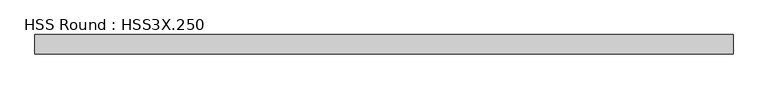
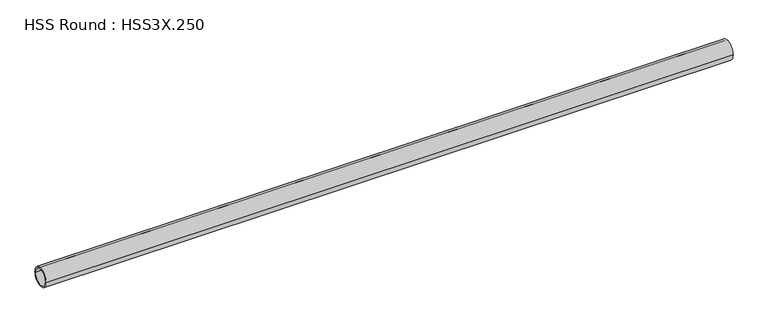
"""IFC4 building model written with IfcOpenShell, lengths in millimetres: member geometry, HSS Round : HSS3X.250."""

from ifc_helpers import new_model, si_unit, point, frame, origin, origin_2d, place, context, project, spatial, circle_curve, trimmed, segment, composite_curve, outline, extrude, source, transform, mapped, element, save


def hss_round_hss3x_250_1ae0081d(model_context):
    return source(origin(), model_context, "Body", "SweptSolid", [
        extrude(outline(composite_curve([segment(trimmed(circle_curve(origin_2d(), 38.1), [point((-38.1, 0.0))], [point((38.1, 0.0))], False, "CARTESIAN"), True, "CONTINUOUS"), segment(trimmed(circle_curve(origin_2d(), 38.1), [point((38.1, 0.0))], [point((-38.1, 0.0))], False, "CARTESIAN"), True, "CONTINUOUS")], self_intersect=False), holes=[composite_curve([segment(trimmed(circle_curve(origin_2d(), 31.75), [point((31.75, 0.0))], [point((-31.75, 0.0))], True, "CARTESIAN"), True, "CONTINUOUS"), segment(trimmed(circle_curve(origin_2d(), 31.75), [point((-31.75, 0.0))], [point((31.75, 0.0))], True, "CARTESIAN"), True, "CONTINUOUS")], self_intersect=False)]), frame((-1406.2190626, 0.0, 0.0), z_axis=(1.0, 0.0, 0.0), x_axis=(0.0, 1.0, 0.0)), (0.0, 0.0, 1.0), 2729.7832459),
    ])


if __name__ == "__main__":
    model = new_model("IFC4")
    model_context = context("Model", 3, world=origin())
    ifc_project = project(units=[si_unit("LENGTHUNIT", "METRE", prefix="MILLI")], contexts=[model_context])
    site = spatial("IfcSite", under=ifc_project)
    building = spatial("IfcBuilding", under=site)
    placement = place(None, origin())
    hss_round_hss3x_250_shape = hss_round_hss3x_250_1ae0081d(model_context)
    element("IfcMember", 1, ObjectType="HSS Round : HSS3X.250", at=placement, inside=building, context=model_context, shape_type="MappedRepresentation", body=[
        mapped(hss_round_hss3x_250_shape, transform((0.0, 0.0, 0.0), x_axis=(1.0, 0.0, 0.0), y_axis=(0.0, 1.0, 0.0), z_axis=(0.0, 0.0, 1.0))),
    ])
    save(model, "model.ifc")
